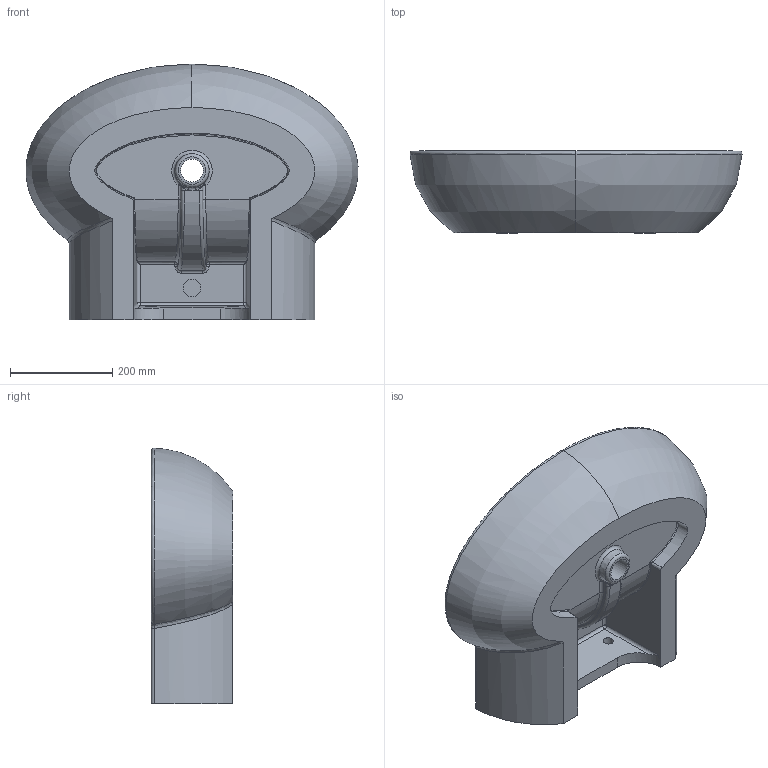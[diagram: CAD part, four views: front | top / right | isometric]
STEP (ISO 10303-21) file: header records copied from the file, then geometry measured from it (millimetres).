
FILE_DESCRIPTION(/* description */ (''),/* implementation_level */ '2;1');
FILE_NAME(/* name */ 'C:\Users\m.cicconi\Desktop\AZZURRA 3D\07 COMODA\LAVABI COMODA\COMODA LAVABI STEP\COM65_S.stp',/* time_stamp */ '2017-12-20T12:06:32+01:00',/* author */ ('m.cicconi'),/* organization */ (''),/* preprocessor_version */ 'ST-DEVELOPER v16.1',/* originating_system */ 'Autodesk Inventor 2016',/* authorisation */ '');
FILE_SCHEMA (('AUTOMOTIVE_DESIGN { 1 0 10303 214 3 1 1 }'));
Length unit declared in the file: metre
Products named in the file (1): COM65_S
Bounding box: 649.22 x 160 x 499.9 mm (x, y, z)
Volume: 18125245.1 mm3; surface area: 893043.9 mm2
Topology: 1 solids, 1 shells, 118 faces, 279 edges, 159 vertices
Faces by surface type: bspline 60, cylinder 28, plane 18, sphere 6, torus 4, cone 2
Full cylindrical faces by diameter (mm): 20 x2, 35 x1, 45 x1
Entity records: 14995 total; most frequent: CARTESIAN_POINT 12664, ORIENTED_EDGE 528, DIRECTION 400, EDGE_CURVE 264, AXIS2_PLACEMENT_3D 171, VERTEX_POINT 156, EDGE_LOOP 132, FACE_OUTER_BOUND 118
